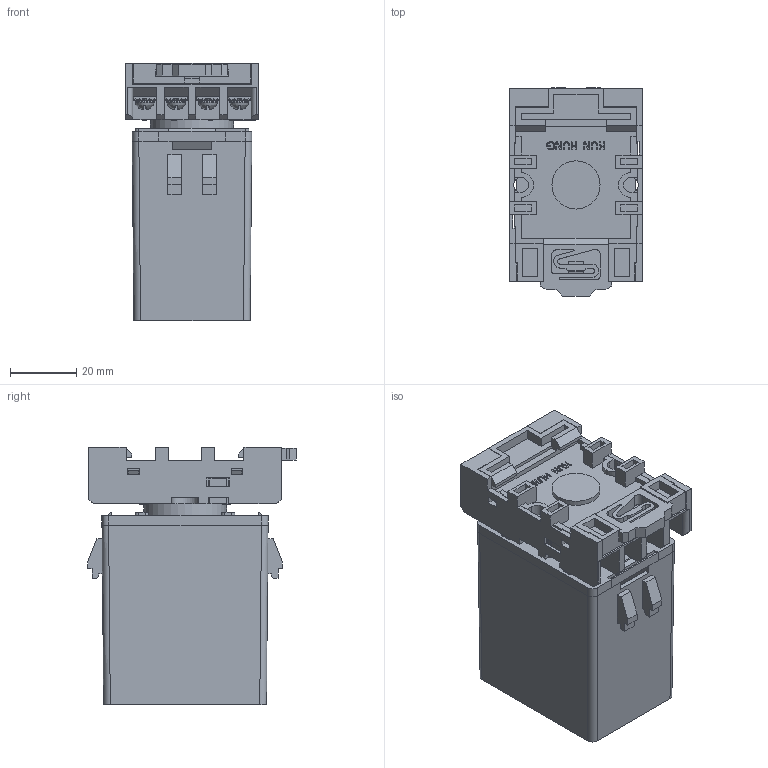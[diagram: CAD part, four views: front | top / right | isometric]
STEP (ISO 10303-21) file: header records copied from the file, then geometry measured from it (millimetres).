
FILE_DESCRIPTION((''),'2;1');
FILE_NAME('D:\yang\Yang cw\SPG 업무\2. DC MOTOR\7. DC MOTOR 브로슈어\BRAKE PACK\CONTACT TYPE\CONTACT TYPE(S).stp','2015-03-30T16:19:39',('ycw1227'),(''),'Autodesk Inventor 2013','Autodesk Inventor 2013','');
FILE_SCHEMA(('AUTOMOTIVE_DESIGN { 1 0 10303 214 1 1 1 1 }'));
Length unit declared in the file: millimetre
Products named in the file (1): 부품21
Bounding box: 40 x 62.8 x 77.5 mm (x, y, z)
Volume: 47342.5 mm3; surface area: 44381.1 mm2
Topology: 1 solids, 4 shells, 2731 faces, 7203 edges, 4391 vertices
Faces by surface type: plane 1190, bspline 781, cylinder 527, torus 128, cone 89, sphere 16
Full cylindrical faces by diameter (mm): 2 x1, 2.4 x8, 3 x8, 3.5 x16, 4 x8, 4.5 x2, 5.8 x8, 11 x1, 14.5 x1, 25 x1
Entity records: 99680 total; most frequent: CARTESIAN_POINT 34082, ORIENTED_EDGE 13956, DIRECTION 11426, EDGE_CURVE 6978, VERTEX_POINT 4372, VECTOR 4044, LINE 4044, AXIS2_PLACEMENT_3D 3691
